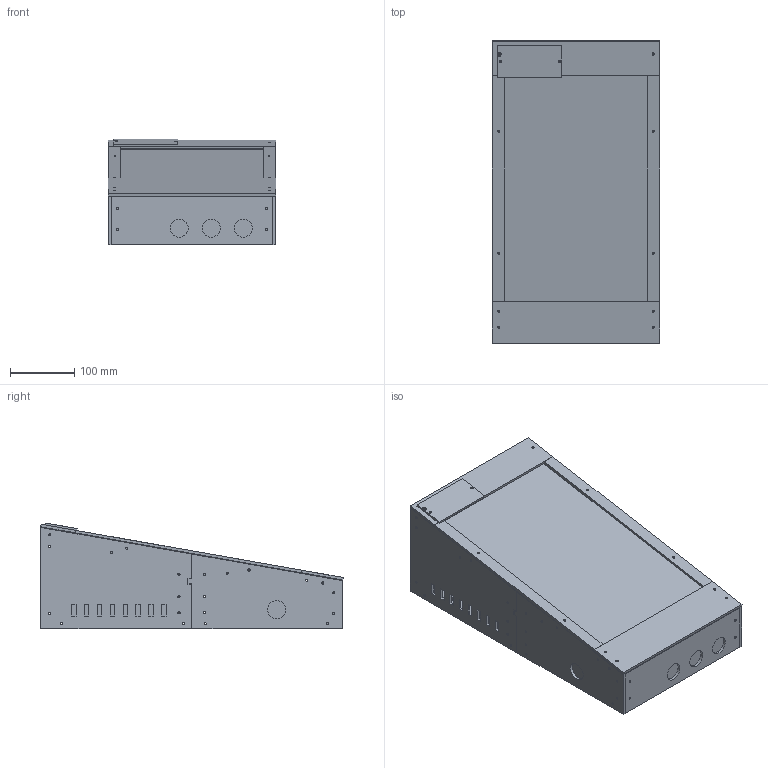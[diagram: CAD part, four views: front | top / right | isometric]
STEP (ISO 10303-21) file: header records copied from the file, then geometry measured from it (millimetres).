
FILE_DESCRIPTION(('Open CASCADE Model'),'2;1');
FILE_NAME('Open CASCADE Shape Model','2026-11-06T22:29:08',('Author'),( 'Open CASCADE'),'Open CASCADE STEP processor 7.8','Open CASCADE 7.8' ,'Unknown');
FILE_SCHEMA(('AUTOMOTIVE_DESIGN { 1 0 10303 214 1 1 1 1 }'));
Length unit declared in the file: millimetre
Products named in the file (55): Mini_VPin_Prototype_V1_6; left_front_wall; left_rear_wall; right_front_wall; right_rear_wall; front_button_panel; rear_vent_panel; corner_left_front_24; corner_left_front_56; corner_left_rear_24; corner_left_rear_128; corner_right_front_24; corner_right_front_56; corner_right_rear_24; corner_right_rear_128; splice_left; splice_right; floor_block_left_28; floor_block_left_218; floor_block_left_252; floor_block_left_442; floor_block_right_28; floor_block_right_218; floor_block_right_252; floor_block_right_442; bottom_front; bottom_rear; top_block_left_25; top_block_left_50; top_block_left_140; top_block_left_330; top_block_left_450; top_block_right_25; top_block_right_50; top_block_right_140; top_block_right_330; top_block_right_450; monitor_saddle_left_180; monitor_saddle_left_360; monitor_saddle_right_180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
Assembly tree (54 placements, depth 2):
  Mini_VPin_Prototype_V1_6
    left_front_wall
    left_rear_wall
    right_front_wall
    right_rear_wall
    front_button_panel
    rear_vent_panel
    corner_left_front_24
    corner_left_front_56
    corner_left_rear_24
    corner_left_rear_128
    corner_right_front_24
    corner_right_front_56
    corner_right_rear_24
    corner_right_rear_128
    splice_left
    splice_right
    floor_block_left_28
    floor_block_left_218
    floor_block_left_252
    floor_block_left_442
    floor_block_right_28
    floor_block_right_218
    floor_block_right_252
    floor_block_right_442
    bottom_front
    bottom_rear
    top_block_left_25
    top_block_left_50
    top_block_left_140
    top_block_left_330
    top_block_left_450
    top_block_right_25
    top_block_right_50
    top_block_right_140
    top_block_right_330
    top_block_right_450
    monitor_saddle_left_180
    monitor_saddle_left_360
    monitor_saddle_right_180
    monitor_saddle_right_360
    bezel_left_one_piece
    bezel_right_a1_a2
    front_cable_lid
    rear_control_deck
    control_hatch
    REFERENCE_monitor_12mm_envelope
    REFERENCE_PC_allowance_ports_face_front
    REFERENCE_0_front_button_110
    REFERENCE_1_front_button_160
    REFERENCE_2_front_button_210
    REFERENCE_3_left_flipper
    REFERENCE_4_right_flipper
    REFERENCE_5_central_folded_cover_reserve
    REFERENCE_6_USB_encoder_allowance
Bounding box: 260 x 470.69 x 164.59 mm (x, y, z)
Volume: 6545626.7 mm3; surface area: 1304132.7 mm2
Topology: 54 solids, 54 shells, 1005 faces, 2601 edges, 1734 vertices
Faces by surface type: plane 843, cylinder 162
Full cylindrical faces by diameter (mm): 3.4 x156, 28 x5
Entity records: 66038 total; most frequent: CARTESIAN_POINT 11827, DIRECTION 9548, LINE 6453, VECTOR 6453, ORIENTED_EDGE 5202, PCURVE 5202, DEFINITIONAL_REPRESENTATION 5202, EDGE_CURVE 2601
